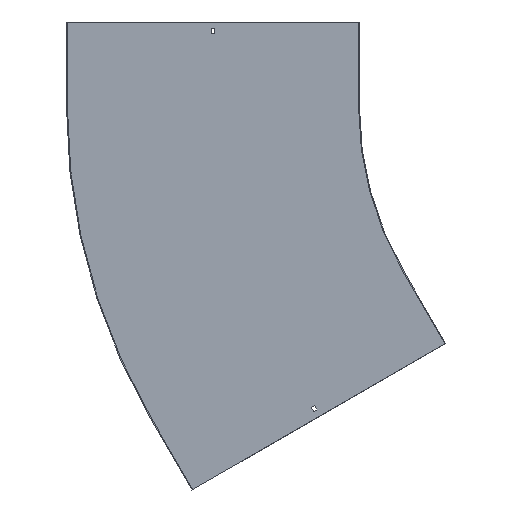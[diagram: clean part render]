
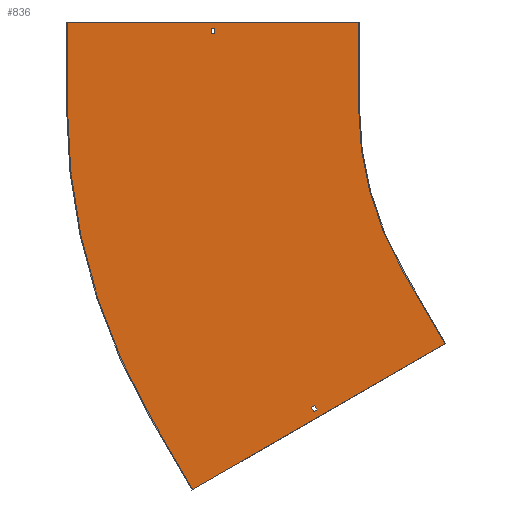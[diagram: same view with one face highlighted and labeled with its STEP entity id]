
A CAD part, front view. The second image highlights one B-rep face of the part: STEP entity #836.
In plain terms, the highlighted planar face has unit normal (0, -1, 0).
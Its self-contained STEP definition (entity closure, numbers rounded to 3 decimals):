
#5 = VECTOR ( 'NONE', #172, 1000. ) ;
#6 = CARTESIAN_POINT ( 'NONE',  ( -510.955, -1.5, -295. ) ) ;
#14 = DIRECTION ( 'NONE',  ( -0.866, 0., -0.5 ) ) ;
#15 = ORIENTED_EDGE ( 'NONE', *, *, #236, .T. ) ;
#21 = LINE ( 'NONE', #218, #316 ) ;
#23 = LINE ( 'NONE', #476, #170 ) ;
#24 = EDGE_CURVE ( 'NONE', #42, #838, #165, .T. ) ;
#25 = ORIENTED_EDGE ( 'NONE', *, *, #222, .T. ) ;
#29 = PLANE ( 'NONE',  #735 ) ;
#38 = VERTEX_POINT ( 'NONE', #278 ) ;
#42 = VERTEX_POINT ( 'NONE', #427 ) ;
#43 = CARTESIAN_POINT ( 'NONE',  ( -669.936, -1.5, -546.137 ) ) ;
#60 = VECTOR ( 'NONE', #711, 1000. ) ;
#65 = CARTESIAN_POINT ( 'NONE',  ( 0., -1.5, 0. ) ) ;
#66 = VERTEX_POINT ( 'NONE', #641 ) ;
#69 = CARTESIAN_POINT ( 'NONE',  ( -853.25, -1.5, 0. ) ) ;
#74 = DIRECTION ( 'NONE',  ( 0.866, 0., 0.5 ) ) ;
#82 = DIRECTION ( 'NONE',  ( 0., 0., -1. ) ) ;
#83 = LINE ( 'NONE', #660, #767 ) ;
#113 = ORIENTED_EDGE ( 'NONE', *, *, #248, .F. ) ;
#114 = VECTOR ( 'NONE', #390, 1000. ) ;
#119 = VERTEX_POINT ( 'NONE', #310 ) ;
#135 = LINE ( 'NONE', #69, #114 ) ;
#146 = DIRECTION ( 'NONE',  ( 0., -1., 0. ) ) ;
#147 = CARTESIAN_POINT ( 'NONE',  ( -846.75, -1.5, 138. ) ) ;
#165 = LINE ( 'NONE', #493, #497 ) ;
#166 = VERTEX_POINT ( 'NONE', #237 ) ;
#167 = CARTESIAN_POINT ( 'NONE',  ( -886.288, -1.5, -684.904 ) ) ;
#170 = VECTOR ( 'NONE', #813, 1000. ) ;
#172 = DIRECTION ( 'NONE',  ( -0.5, 0., 0.866 ) ) ;
#179 = DIRECTION ( 'NONE',  ( -0.866, 0., -0.5 ) ) ;
#183 = CARTESIAN_POINT ( 'NONE',  ( -1111.5, -1.5, 150. ) ) ;
#184 = AXIS2_PLACEMENT_3D ( 'NONE', #219, #146, #82 ) ;
#195 = CARTESIAN_POINT ( 'NONE',  ( 0., -1.5, 129. ) ) ;
#196 = DIRECTION ( 'NONE',  ( 0., 0., -1. ) ) ;
#204 = VECTOR ( 'NONE', #179, 1000. ) ;
#210 = CARTESIAN_POINT ( 'NONE',  ( -846.75, -1.5, 129. ) ) ;
#218 = CARTESIAN_POINT ( 'NONE',  ( -738.936, -1.5, -426.625 ) ) ;
#219 = CARTESIAN_POINT ( 'NONE',  ( 0., -1.5, 0. ) ) ;
#221 = EDGE_LOOP ( 'NONE', ( #500, #424, #400, #262 ) ) ;
#222 = EDGE_CURVE ( 'NONE', #384, #630, #135, .T. ) ;
#232 = ORIENTED_EDGE ( 'NONE', *, *, #529, .T. ) ;
#235 = ORIENTED_EDGE ( 'NONE', *, *, #24, .F. ) ;
#236 = EDGE_CURVE ( 'NONE', #630, #760, #336, .T. ) ;
#237 = CARTESIAN_POINT ( 'NONE',  ( -1110., -1.5, 150. ) ) ;
#244 = ORIENTED_EDGE ( 'NONE', *, *, #707, .F. ) ;
#248 = EDGE_CURVE ( 'NONE', #119, #66, #304, .T. ) ;
#261 = LINE ( 'NONE', #371, #204 ) ;
#262 = ORIENTED_EDGE ( 'NONE', *, *, #832, .F. ) ;
#278 = CARTESIAN_POINT ( 'NONE',  ( -664.307, -1.5, -542.887 ) ) ;
#282 = VERTEX_POINT ( 'NONE', #470 ) ;
#284 = LINE ( 'NONE', #627, #714 ) ;
#286 = CARTESIAN_POINT ( 'NONE',  ( -853.25, -1.5, 129. ) ) ;
#287 = DIRECTION ( 'NONE',  ( 0., -1., 0. ) ) ;
#299 = EDGE_CURVE ( 'NONE', #370, #384, #584, .T. ) ;
#304 = CIRCLE ( 'NONE', #512, 1110. ) ;
#310 = CARTESIAN_POINT ( 'NONE',  ( -961.288, -1.5, -555. ) ) ;
#316 = VECTOR ( 'NONE', #430, 1000. ) ;
#336 = LINE ( 'NONE', #394, #825 ) ;
#343 = CARTESIAN_POINT ( 'NONE',  ( -668.807, -1.5, -535.092 ) ) ;
#352 = EDGE_CURVE ( 'NONE', #838, #651, #766, .T. ) ;
#370 = VERTEX_POINT ( 'NONE', #210 ) ;
#371 = CARTESIAN_POINT ( 'NONE',  ( -434.656, -1.5, -424.154 ) ) ;
#384 = VERTEX_POINT ( 'NONE', #286 ) ;
#390 = DIRECTION ( 'NONE',  ( 0., 0., 1. ) ) ;
#394 = CARTESIAN_POINT ( 'NONE',  ( 0., -1.5, 138. ) ) ;
#397 = DIRECTION ( 'NONE',  ( 0., 1., 0. ) ) ;
#398 = FACE_OUTER_BOUND ( 'NONE', #819, .T. ) ;
#400 = ORIENTED_EDGE ( 'NONE', *, *, #563, .F. ) ;
#403 = VECTOR ( 'NONE', #14, 1000. ) ;
#405 = CARTESIAN_POINT ( 'NONE',  ( -886.288, -1.5, -684.904 ) ) ;
#424 = ORIENTED_EDGE ( 'NONE', *, *, #845, .F. ) ;
#427 = CARTESIAN_POINT ( 'NONE',  ( -590., -1.5, 150. ) ) ;
#430 = DIRECTION ( 'NONE',  ( 0.5, 0., -0.866 ) ) ;
#445 = DIRECTION ( 'NONE',  ( 1., 0., 0. ) ) ;
#461 = CARTESIAN_POINT ( 'NONE',  ( -590., -1.5, 0. ) ) ;
#462 = EDGE_LOOP ( 'NONE', ( #15, #232, #626, #25 ) ) ;
#470 = CARTESIAN_POINT ( 'NONE',  ( -435.955, -1.5, -424.904 ) ) ;
#476 = CARTESIAN_POINT ( 'NONE',  ( -1110., -1.5, 0. ) ) ;
#482 = FACE_BOUND ( 'NONE', #221, .T. ) ;
#493 = CARTESIAN_POINT ( 'NONE',  ( -590., -1.5, 150. ) ) ;
#497 = VECTOR ( 'NONE', #558, 1000. ) ;
#500 = ORIENTED_EDGE ( 'NONE', *, *, #691, .F. ) ;
#506 = LINE ( 'NONE', #6, #60 ) ;
#512 = AXIS2_PLACEMENT_3D ( 'NONE', #65, #397, #729 ) ;
#524 = VECTOR ( 'NONE', #862, 1000. ) ;
#527 = CARTESIAN_POINT ( 'NONE',  ( -733.307, -1.5, -423.375 ) ) ;
#529 = EDGE_CURVE ( 'NONE', #760, #370, #284, .T. ) ;
#535 = EDGE_CURVE ( 'NONE', #834, #119, #765, .T. ) ;
#553 = VERTEX_POINT ( 'NONE', #43 ) ;
#558 = DIRECTION ( 'NONE',  ( 0., 0., -1. ) ) ;
#563 = EDGE_CURVE ( 'NONE', #863, #553, #21, .T. ) ;
#568 = VECTOR ( 'NONE', #815, 1000. ) ;
#571 = VERTEX_POINT ( 'NONE', #343 ) ;
#584 = LINE ( 'NONE', #195, #524 ) ;
#614 = CARTESIAN_POINT ( 'NONE',  ( 64.5, -1.5, -111.717 ) ) ;
#617 = CARTESIAN_POINT ( 'NONE',  ( -853.25, -1.5, 138. ) ) ;
#624 = VECTOR ( 'NONE', #445, 1000. ) ;
#626 = ORIENTED_EDGE ( 'NONE', *, *, #299, .T. ) ;
#627 = CARTESIAN_POINT ( 'NONE',  ( -846.75, -1.5, 0. ) ) ;
#630 = VERTEX_POINT ( 'NONE', #617 ) ;
#631 = LINE ( 'NONE', #183, #624 ) ;
#641 = CARTESIAN_POINT ( 'NONE',  ( -1110., -1.5, 0. ) ) ;
#651 = VERTEX_POINT ( 'NONE', #770 ) ;
#652 = EDGE_CURVE ( 'NONE', #651, #282, #506, .T. ) ;
#657 = ORIENTED_EDGE ( 'NONE', *, *, #535, .F. ) ;
#660 = CARTESIAN_POINT ( 'NONE',  ( 69., -1.5, -119.512 ) ) ;
#661 = ORIENTED_EDGE ( 'NONE', *, *, #726, .F. ) ;
#666 = LINE ( 'NONE', #614, #403 ) ;
#681 = FACE_BOUND ( 'NONE', #462, .T. ) ;
#685 = EDGE_CURVE ( 'NONE', #282, #834, #261, .T. ) ;
#691 = EDGE_CURVE ( 'NONE', #38, #571, #849, .T. ) ;
#707 = EDGE_CURVE ( 'NONE', #166, #42, #631, .T. ) ;
#711 = DIRECTION ( 'NONE',  ( 0.5, 0., -0.866 ) ) ;
#714 = VECTOR ( 'NONE', #835, 1000. ) ;
#716 = ORIENTED_EDGE ( 'NONE', *, *, #685, .F. ) ;
#722 = DIRECTION ( 'NONE',  ( 1., 0., 0. ) ) ;
#724 = ORIENTED_EDGE ( 'NONE', *, *, #352, .F. ) ;
#726 = EDGE_CURVE ( 'NONE', #66, #166, #23, .T. ) ;
#729 = DIRECTION ( 'NONE',  ( 0., 0., -1. ) ) ;
#735 = AXIS2_PLACEMENT_3D ( 'NONE', #738, #287, #196 ) ;
#738 = CARTESIAN_POINT ( 'NONE',  ( 0., -1.5, 0. ) ) ;
#760 = VERTEX_POINT ( 'NONE', #147 ) ;
#765 = LINE ( 'NONE', #167, #568 ) ;
#766 = CIRCLE ( 'NONE', #184, 590. ) ;
#767 = VECTOR ( 'NONE', #74, 1000. ) ;
#770 = CARTESIAN_POINT ( 'NONE',  ( -510.955, -1.5, -295. ) ) ;
#809 = ORIENTED_EDGE ( 'NONE', *, *, #652, .F. ) ;
#813 = DIRECTION ( 'NONE',  ( 0., 0., 1. ) ) ;
#815 = DIRECTION ( 'NONE',  ( -0.5, 0., 0.866 ) ) ;
#819 = EDGE_LOOP ( 'NONE', ( #244, #661, #113, #657, #716, #809, #724, #235 ) ) ;
#822 = CARTESIAN_POINT ( 'NONE',  ( -674.436, -1.5, -538.342 ) ) ;
#825 = VECTOR ( 'NONE', #722, 1000. ) ;
#832 = EDGE_CURVE ( 'NONE', #571, #863, #666, .T. ) ;
#834 = VERTEX_POINT ( 'NONE', #405 ) ;
#835 = DIRECTION ( 'NONE',  ( 0., 0., -1. ) ) ;
#836 = ADVANCED_FACE ( 'NONE', ( #482, #398, #681 ), #29, .T. ) ;
#838 = VERTEX_POINT ( 'NONE', #461 ) ;
#845 = EDGE_CURVE ( 'NONE', #553, #38, #83, .T. ) ;
#849 = LINE ( 'NONE', #527, #5 ) ;
#862 = DIRECTION ( 'NONE',  ( -1., 0., 0. ) ) ;
#863 = VERTEX_POINT ( 'NONE', #822 ) ;
